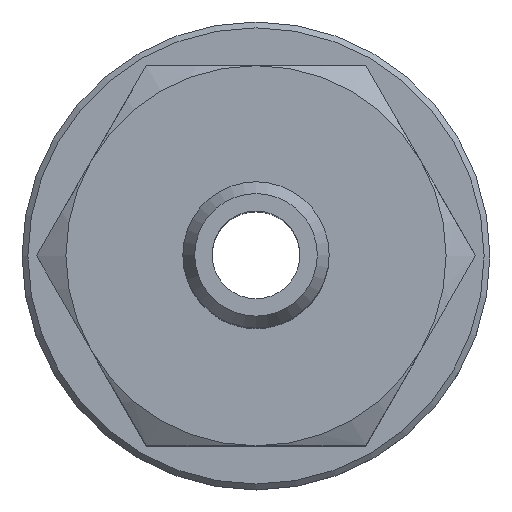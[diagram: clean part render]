
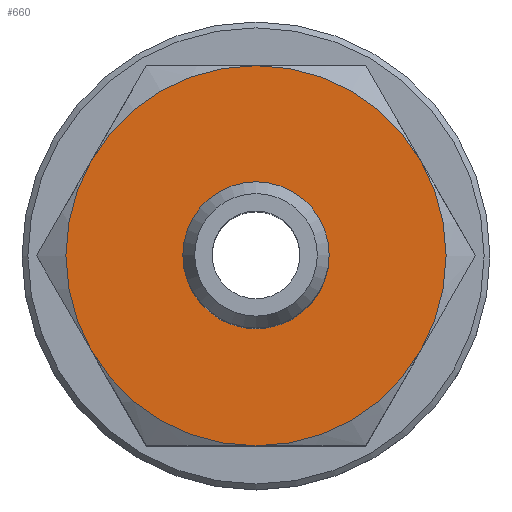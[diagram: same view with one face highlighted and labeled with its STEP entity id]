
A CAD part, top view. The second image highlights one B-rep face of the part: STEP entity #660.
In plain terms, the highlighted planar face has unit normal (0, 0, 1).
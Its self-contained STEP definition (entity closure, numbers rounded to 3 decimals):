
#660=ADVANCED_FACE('', (#670,#680), #690, .T.);
#2240=AXIS2_PLACEMENT_3D('Ax2Pl3d', #2250, #2260, #2270);
#2320=AXIS2_PLACEMENT_3D('Ax2Pl3d', #2330, #2340, #2350);
#2440=AXIS2_PLACEMENT_3D('Ax2Pl3d', #2450, #2460, #2470);
#2560=AXIS2_PLACEMENT_3D('Ax2Pl3d', #2570, #2580, #2590);
#2680=AXIS2_PLACEMENT_3D('Ax2Pl3d', #2690, #2700, #2710);
#2800=AXIS2_PLACEMENT_3D('Ax2Pl3d', #2810, #2820, #2830);
#2960=AXIS2_PLACEMENT_3D('Ax2Pl3d', #2970, #2980, #2990);
#3000=AXIS2_PLACEMENT_3D('Ax2Pl3d', #3010, #3020, #3030);
#6220=CARTESIAN_POINT('', (5.357,12.982,19.151));
#6250=CARTESIAN_POINT('', (5.357,6.482,19.151));
#2250=CARTESIAN_POINT('HicPkt', (10.986,9.732,19.151));
#2330=CARTESIAN_POINT('HicPkt', (10.986,9.732,19.151));
#6260=CARTESIAN_POINT('', (10.986,16.232,19.151));
#2450=CARTESIAN_POINT('HicPkt', (10.986,9.732,19.151));
#6310=CARTESIAN_POINT('', (16.615,12.982,19.151));
#2570=CARTESIAN_POINT('HicPkt', (10.986,9.732,19.151));
#6360=CARTESIAN_POINT('', (16.615,6.482,19.151));
#2690=CARTESIAN_POINT('HicPkt', (10.986,9.732,19.151));
#6410=CARTESIAN_POINT('', (10.986,3.232,19.151));
#2810=CARTESIAN_POINT('HicPkt', (10.986,9.732,19.151));
#2970=CARTESIAN_POINT('HicPkt', (17.486,9.732,19.151));
#3010=CARTESIAN_POINT('HicPkt', (10.986,9.732,19.151));
#6480=CARTESIAN_POINT('', (10.986,12.232,19.151));
#6790=CIRCLE('Circle', #2240, 6.5);
#6800=CIRCLE('Circle', #2320, 6.5);
#6810=CIRCLE('Circle', #2440, 6.5);
#6820=CIRCLE('Circle', #2560, 6.5);
#6830=CIRCLE('Circle', #2680, 6.5);
#6840=CIRCLE('Circle', #2800, 6.5);
#6860=CIRCLE('Circle', #3000, 2.5);
#2260=DIRECTION('Axis', (0.,0.,-1.));
#2270=DIRECTION('RefDirection', (-1.,-0.,0.));
#2340=DIRECTION('Axis', (0.,0.,-1.));
#2350=DIRECTION('RefDirection', (-1.,-0.,0.));
#2460=DIRECTION('Axis', (0.,0.,-1.));
#2470=DIRECTION('RefDirection', (-1.,-0.,0.));
#2580=DIRECTION('Axis', (0.,0.,-1.));
#2590=DIRECTION('RefDirection', (-1.,-0.,0.));
#2700=DIRECTION('Axis', (0.,0.,-1.));
#2710=DIRECTION('RefDirection', (-1.,-0.,0.));
#2820=DIRECTION('Axis', (0.,0.,-1.));
#2830=DIRECTION('RefDirection', (-1.,-0.,0.));
#2980=DIRECTION('Axis', (0.,0.,1.));
#2990=DIRECTION('RefDirection', (1.,0.,-0.));
#3020=DIRECTION('Axis', (0.,0.,1.));
#3030=DIRECTION('RefDirection', (1.,0.,-0.));
#9440=EDGE_CURVE('', #9430, #9370, #6790, .T.);
#9450=EDGE_CURVE('', #9370, #9460, #6800, .T.);
#9550=EDGE_CURVE('', #9460, #9560, #6810, .T.);
#9650=EDGE_CURVE('', #9560, #9660, #6820, .T.);
#9750=EDGE_CURVE('', #9660, #9760, #6830, .T.);
#9850=EDGE_CURVE('', #9760, #9430, #6840, .T.);
#9910=EDGE_CURVE('', #9920, #9920, #6860, .T.);
#11300=EDGE_LOOP('Edge_loop', (#11310,#11320,#11330,#11340,#11350,
#11360));
#11370=EDGE_LOOP('Edge_loop', (#11380));
#680=FACE_BOUND('', #11370, .T.);
#670=FACE_OUTER_BOUND('Face_outer_bound', #11300, .T.);
#11310=ORIENTED_EDGE('', *, *, #9750, .F.);
#11320=ORIENTED_EDGE('', *, *, #9650, .F.);
#11330=ORIENTED_EDGE('', *, *, #9550, .F.);
#11340=ORIENTED_EDGE('', *, *, #9450, .F.);
#11350=ORIENTED_EDGE('', *, *, #9440, .F.);
#11360=ORIENTED_EDGE('', *, *, #9850, .F.);
#11380=ORIENTED_EDGE('', *, *, #9910, .F.);
#690=PLANE('Plane', #2960);
#9370=VERTEX_POINT('', #6220);
#9430=VERTEX_POINT('', #6250);
#9460=VERTEX_POINT('', #6260);
#9560=VERTEX_POINT('', #6310);
#9660=VERTEX_POINT('', #6360);
#9760=VERTEX_POINT('', #6410);
#9920=VERTEX_POINT('', #6480);
